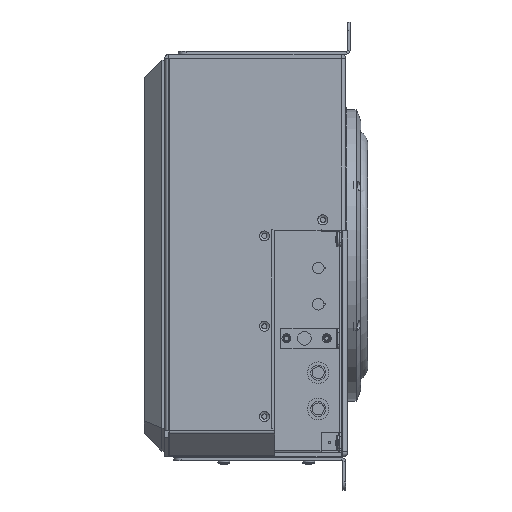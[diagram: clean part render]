
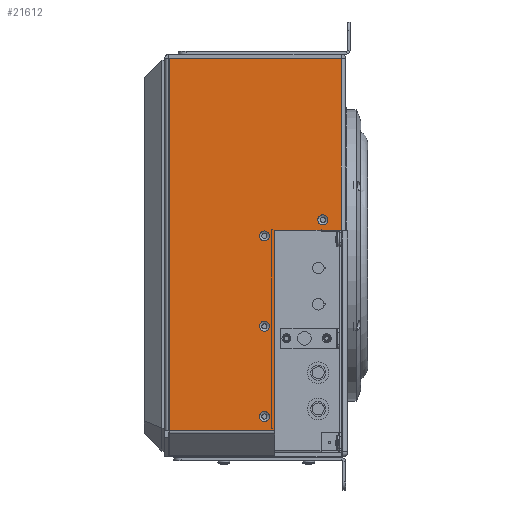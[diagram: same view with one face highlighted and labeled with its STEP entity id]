
A CAD part, left-side view. The second image highlights one B-rep face of the part: STEP entity #21612.
In plain terms, the highlighted planar face has unit normal (-1, 0, 0).
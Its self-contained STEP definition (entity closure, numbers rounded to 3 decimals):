
#175 = PLANE ( 'NONE',  #9630 ) ;
#370 = CARTESIAN_POINT ( 'NONE',  ( -501.755, 78.281, 178.342 ) ) ;
#1050 = CARTESIAN_POINT ( 'NONE',  ( -501.755, 3.071, -28.668 ) ) ;
#1262 = CIRCLE ( 'NONE', #31753, 3.962 ) ;
#1737 = VERTEX_POINT ( 'NONE', #44759 ) ;
#2490 = EDGE_LOOP ( 'NONE', ( #33072, #36409, #21422, #31357, #10075, #21616, #23951, #38644 ) ) ;
#3305 = VERTEX_POINT ( 'NONE', #14883 ) ;
#4940 = VECTOR ( 'NONE', #23110, 1000. ) ;
#5507 = CARTESIAN_POINT ( 'NONE',  ( -501.755, 3.071, 38.565 ) ) ;
#5934 = LINE ( 'NONE', #13240, #15773 ) ;
#5989 = CARTESIAN_POINT ( 'NONE',  ( -501.755, 3.071, -32.631 ) ) ;
#6317 = ORIENTED_EDGE ( 'NONE', *, *, #7400, .F. ) ;
#6799 = VECTOR ( 'NONE', #35052, 1000. ) ;
#6977 = EDGE_CURVE ( 'NONE', #43310, #37209, #12885, .T. ) ;
#7400 = EDGE_CURVE ( 'NONE', #46778, #46778, #18750, .T. ) ;
#7506 = VECTOR ( 'NONE', #23507, 1000. ) ;
#7562 = CARTESIAN_POINT ( 'NONE',  ( -501.755, 3.071, 42.528 ) ) ;
#7726 = DIRECTION ( 'NONE',  ( 0., 1., 0. ) ) ;
#8469 = FACE_OUTER_BOUND ( 'NONE', #2490, .T. ) ;
#8975 = VERTEX_POINT ( 'NONE', #20813 ) ;
#9418 = CARTESIAN_POINT ( 'NONE',  ( -501.755, -5.057, -115.074 ) ) ;
#9630 = AXIS2_PLACEMENT_3D ( 'NONE', #30854, #16021, #7726 ) ;
#9631 = EDGE_LOOP ( 'NONE', ( #38748 ) ) ;
#9790 = CARTESIAN_POINT ( 'NONE',  ( -501.755, 77.9, -115.074 ) ) ;
#9902 = AXIS2_PLACEMENT_3D ( 'NONE', #5989, #20847, #36124 ) ;
#10075 = ORIENTED_EDGE ( 'NONE', *, *, #36766, .T. ) ;
#10562 = CARTESIAN_POINT ( 'NONE',  ( -501.755, 3.071, -103.852 ) ) ;
#11532 = CARTESIAN_POINT ( 'NONE',  ( -501.755, 78.662, 178.342 ) ) ;
#12029 = VECTOR ( 'NONE', #39237, 1000. ) ;
#12885 = LINE ( 'NONE', #23949, #12029 ) ;
#13240 = CARTESIAN_POINT ( 'NONE',  ( -501.755, -5.057, 43.137 ) ) ;
#13293 = AXIS2_PLACEMENT_3D ( 'NONE', #5507, #47958, #17339 ) ;
#13382 = EDGE_CURVE ( 'NONE', #30798, #24798, #16294, .T. ) ;
#14854 = DIRECTION ( 'NONE',  ( -1., 0., 0. ) ) ;
#14883 = CARTESIAN_POINT ( 'NONE',  ( -501.755, 3.071, -99.89 ) ) ;
#15433 = EDGE_CURVE ( 'NONE', #8975, #8975, #48201, .T. ) ;
#15600 = VECTOR ( 'NONE', #35661, 1000. ) ;
#15637 = VERTEX_POINT ( 'NONE', #17238 ) ;
#15773 = VECTOR ( 'NONE', #43852, 1000. ) ;
#16021 = DIRECTION ( 'NONE',  ( 1., 0., 0. ) ) ;
#16294 = LINE ( 'NONE', #43124, #37317 ) ;
#16598 = VERTEX_POINT ( 'NONE', #9418 ) ;
#16655 = CARTESIAN_POINT ( 'NONE',  ( -501.755, -57.482, 43.137 ) ) ;
#16693 = CARTESIAN_POINT ( 'NONE',  ( -501.755, 77.9, -115.074 ) ) ;
#17238 = CARTESIAN_POINT ( 'NONE',  ( -501.755, -5.057, 43.137 ) ) ;
#17339 = DIRECTION ( 'NONE',  ( 0., 0., 1. ) ) ;
#17877 = EDGE_LOOP ( 'NONE', ( #47271 ) ) ;
#18750 = CIRCLE ( 'NONE', #9902, 3.962 ) ;
#19031 = LINE ( 'NONE', #46127, #6799 ) ;
#19088 = LINE ( 'NONE', #11532, #4940 ) ;
#19264 = DIRECTION ( 'NONE',  ( 0., 0., 1. ) ) ;
#19370 = VECTOR ( 'NONE', #36746, 1000. ) ;
#20813 = CARTESIAN_POINT ( 'NONE',  ( -501.755, -43.004, 55.228 ) ) ;
#20847 = DIRECTION ( 'NONE',  ( -1., 0., 0. ) ) ;
#21263 = VERTEX_POINT ( 'NONE', #31642 ) ;
#21422 = ORIENTED_EDGE ( 'NONE', *, *, #6977, .F. ) ;
#21474 = LINE ( 'NONE', #48567, #19370 ) ;
#21612 = ADVANCED_FACE ( 'NONE', ( #8469, #42365, #46893, #23316, #45903 ), #175, .F. ) ;
#21616 = ORIENTED_EDGE ( 'NONE', *, *, #22406, .T. ) ;
#22406 = EDGE_CURVE ( 'NONE', #1737, #30798, #21474, .T. ) ;
#22955 = EDGE_CURVE ( 'NONE', #43310, #21263, #19088, .T. ) ;
#23110 = DIRECTION ( 'NONE',  ( 0., 1., 0. ) ) ;
#23316 = FACE_BOUND ( 'NONE', #44180, .T. ) ;
#23507 = DIRECTION ( 'NONE',  ( 0., 0., -1. ) ) ;
#23583 = CARTESIAN_POINT ( 'NONE',  ( -501.755, 77.9, -115.232 ) ) ;
#23949 = CARTESIAN_POINT ( 'NONE',  ( -501.755, -57.482, 23.148 ) ) ;
#23951 = ORIENTED_EDGE ( 'NONE', *, *, #13382, .T. ) ;
#24659 = LINE ( 'NONE', #9790, #15600 ) ;
#24798 = VERTEX_POINT ( 'NONE', #16693 ) ;
#25142 = EDGE_LOOP ( 'NONE', ( #45139 ) ) ;
#25251 = CARTESIAN_POINT ( 'NONE',  ( -501.755, -57.482, 178.342 ) ) ;
#28098 = DIRECTION ( 'NONE',  ( 0., 0., 1. ) ) ;
#30105 = DIRECTION ( 'NONE',  ( -1., 0., 0. ) ) ;
#30338 = CARTESIAN_POINT ( 'NONE',  ( -501.755, -43.004, 51.265 ) ) ;
#30665 = DIRECTION ( 'NONE',  ( 0., 0., 1. ) ) ;
#30798 = VERTEX_POINT ( 'NONE', #23583 ) ;
#30854 = CARTESIAN_POINT ( 'NONE',  ( -501.755, -61.038, 23.148 ) ) ;
#31357 = ORIENTED_EDGE ( 'NONE', *, *, #22955, .T. ) ;
#31642 = CARTESIAN_POINT ( 'NONE',  ( -501.755, 78.281, 178.342 ) ) ;
#31694 = EDGE_CURVE ( 'NONE', #24798, #16598, #24659, .T. ) ;
#31753 = AXIS2_PLACEMENT_3D ( 'NONE', #10562, #14854, #30665 ) ;
#33072 = ORIENTED_EDGE ( 'NONE', *, *, #35242, .F. ) ;
#33892 = EDGE_CURVE ( 'NONE', #15637, #37209, #19031, .T. ) ;
#34448 = EDGE_CURVE ( 'NONE', #3305, #3305, #1262, .T. ) ;
#34781 = LINE ( 'NONE', #370, #7506 ) ;
#35052 = DIRECTION ( 'NONE',  ( 0., -1., 0. ) ) ;
#35242 = EDGE_CURVE ( 'NONE', #15637, #16598, #5934, .T. ) ;
#35661 = DIRECTION ( 'NONE',  ( 0., -1., 0. ) ) ;
#36124 = DIRECTION ( 'NONE',  ( 0., 0., 1. ) ) ;
#36409 = ORIENTED_EDGE ( 'NONE', *, *, #33892, .T. ) ;
#36746 = DIRECTION ( 'NONE',  ( 0., -1., 0. ) ) ;
#36766 = EDGE_CURVE ( 'NONE', #21263, #1737, #34781, .T. ) ;
#37209 = VERTEX_POINT ( 'NONE', #16655 ) ;
#37317 = VECTOR ( 'NONE', #28098, 1000. ) ;
#38644 = ORIENTED_EDGE ( 'NONE', *, *, #31694, .T. ) ;
#38748 = ORIENTED_EDGE ( 'NONE', *, *, #38955, .F. ) ;
#38955 = EDGE_CURVE ( 'NONE', #45737, #45737, #46861, .T. ) ;
#39237 = DIRECTION ( 'NONE',  ( 0., 0., -1. ) ) ;
#42365 = FACE_BOUND ( 'NONE', #25142, .T. ) ;
#43124 = CARTESIAN_POINT ( 'NONE',  ( -501.755, 77.9, 23.148 ) ) ;
#43310 = VERTEX_POINT ( 'NONE', #25251 ) ;
#43852 = DIRECTION ( 'NONE',  ( 0., 0., -1. ) ) ;
#44180 = EDGE_LOOP ( 'NONE', ( #6317 ) ) ;
#44759 = CARTESIAN_POINT ( 'NONE',  ( -501.755, 78.281, -115.232 ) ) ;
#44960 = AXIS2_PLACEMENT_3D ( 'NONE', #30338, #30105, #19264 ) ;
#45139 = ORIENTED_EDGE ( 'NONE', *, *, #15433, .F. ) ;
#45737 = VERTEX_POINT ( 'NONE', #7562 ) ;
#45903 = FACE_BOUND ( 'NONE', #17877, .T. ) ;
#46127 = CARTESIAN_POINT ( 'NONE',  ( -501.755, -5.057, 43.137 ) ) ;
#46778 = VERTEX_POINT ( 'NONE', #1050 ) ;
#46861 = CIRCLE ( 'NONE', #13293, 3.962 ) ;
#46893 = FACE_BOUND ( 'NONE', #9631, .T. ) ;
#47271 = ORIENTED_EDGE ( 'NONE', *, *, #34448, .F. ) ;
#47958 = DIRECTION ( 'NONE',  ( -1., 0., 0. ) ) ;
#48201 = CIRCLE ( 'NONE', #44960, 3.962 ) ;
#48567 = CARTESIAN_POINT ( 'NONE',  ( -501.755, -57.863, -115.232 ) ) ;
